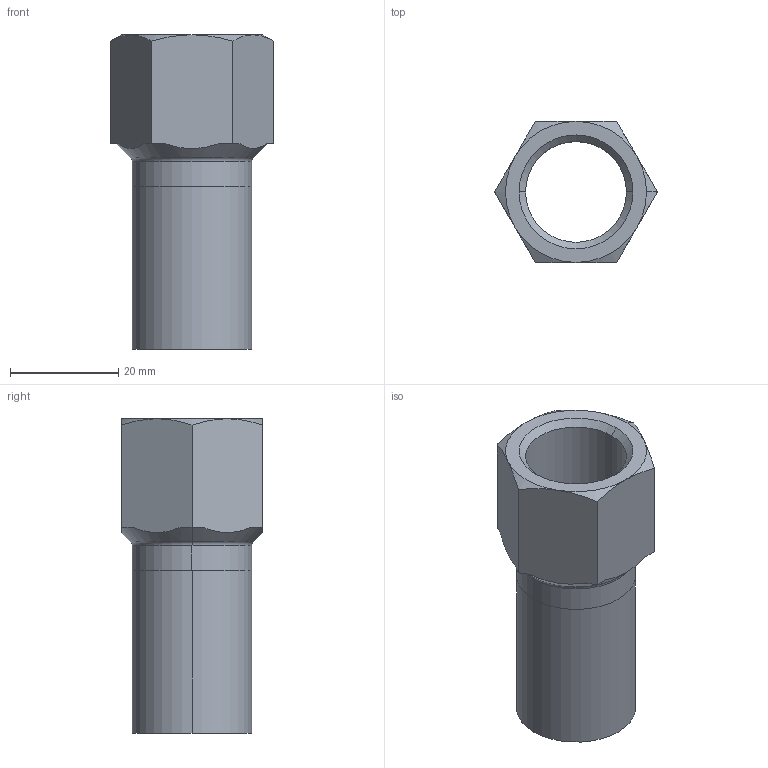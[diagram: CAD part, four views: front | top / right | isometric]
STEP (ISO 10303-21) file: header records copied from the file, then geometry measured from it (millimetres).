
FILE_DESCRIPTION (( 'STEP AP203' ), '1' );
FILE_NAME ('GDA6385.STEP', '2019-07-03T03:23:47', ( '' ), ( '' ), 'SwSTEP 2.0', 'SolidWorks 2015', '' );
FILE_SCHEMA (( 'CONFIG_CONTROL_DESIGN' ));
Length unit declared in the file: millimetre
Products named in the file (3): GDA6385; 22眻奪; OD22｡ﾁ0.5
Assembly tree (2 placements, depth 2):
  GDA6385
    22眻奪
    OD22｡ﾁ0.5
Bounding box: 30.02 x 26 x 58 mm (x, y, z)
Volume: 10180.8 mm3; surface area: 8524 mm2
Topology: 2 solids, 2 shells, 41 faces, 94 edges, 57 vertices
Faces by surface type: plane 16, cone 13, cylinder 10, torus 2
Entity records: 1552 total; most frequent: CARTESIAN_POINT 319, DIRECTION 209, ORIENTED_EDGE 188, EDGE_CURVE 94, AXIS2_PLACEMENT_3D 87, VERTEX_POINT 57, EDGE_LOOP 45, CIRCLE 41
